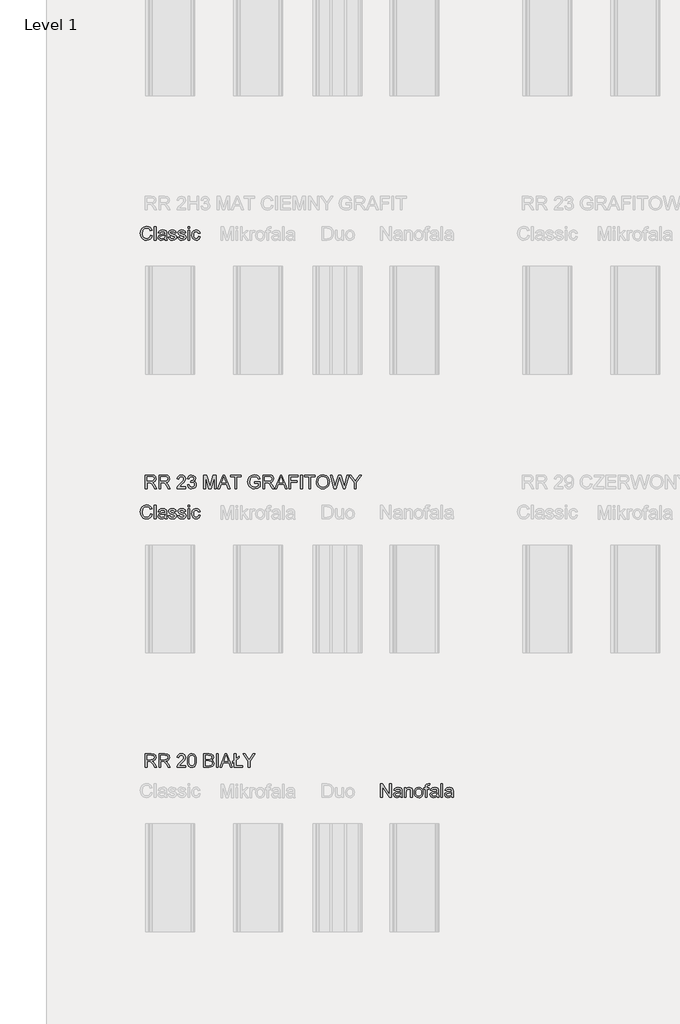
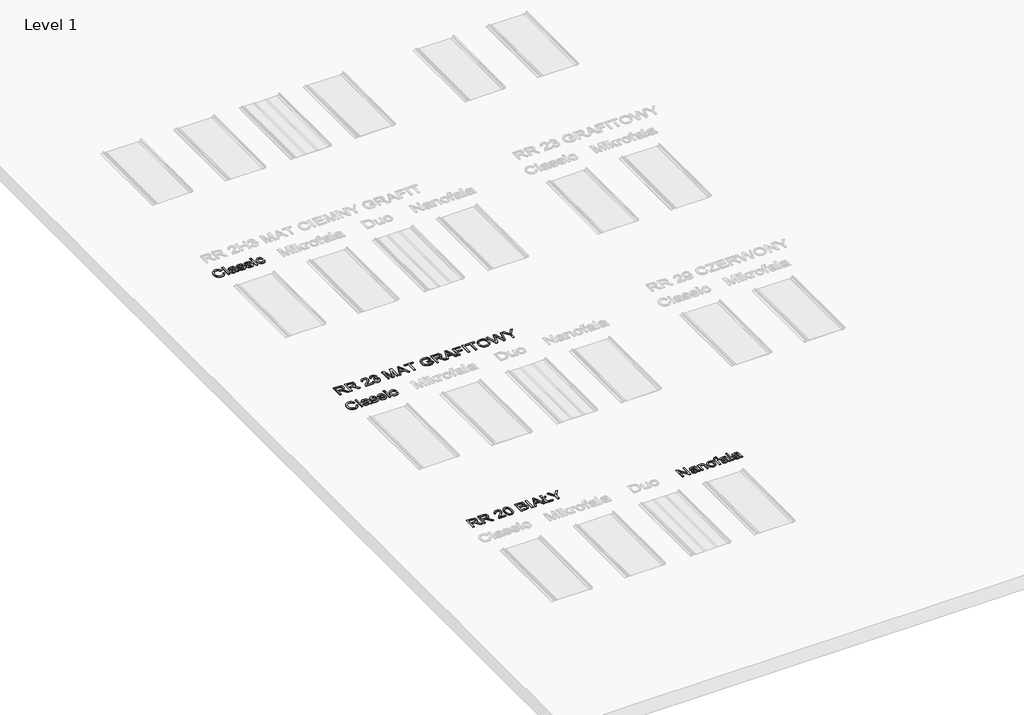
# One storey, part 9 of 22: 5 proxies.
"""IFC4 building model written with IfcOpenShell, lengths in millimetres."""

from ifc_helpers import new_model, si_unit, frame, origin, place, context, project, spatial, polyline, outline, extrude, element, save

model = new_model("IFC4")

# Units and contexts
model_context = context("Model", 3, world=origin())
ifc_project = project(units=[si_unit("LENGTHUNIT", "METRE", prefix="MILLI")], contexts=[model_context])

# Site, building, storey
site = spatial("IfcSite", under=ifc_project)
building = spatial("IfcBuilding", under=site)
storey = spatial("IfcBuildingStorey", under=building, Name="Level 1", Elevation=0.0)

# Proxies
placement = place(None, origin())
element("IfcBuildingElementProxy", 1, Name="150", ObjectType="150", at=placement, inside=storey, context=model_context, shape_type="SweptSolid", body=[
    extrude(outline(polyline([(-8679.0085992, -1917.1818641), (-8660.1730411, -1922.0379064), (-8668.8642532, -1943.986666), (-8682.5034782, -1960.0217224), (-8700.4193314, -1969.8303761), (-8721.9404281, -1973.0999274), (-8743.7880201, -1970.6259209), (-8761.1382547, -1963.2039017), (-8774.4371888, -1951.091387), (-8784.1308794, -1934.5458943), (-8790.049181, -1915.0941338), (-8792.0219482, -1894.2628158), (-8789.7916636, -1872.2910636), (-8783.1008098, -1853.3175497), (-8772.2988747, -1837.9446809), (-8757.7353462, -1826.7748638), (-8740.4632865, -1819.9736454), (-8721.5357579, -1817.7065726), (-8700.8837824, -1820.6404315), (-8683.8094593, -1829.4420082), (-8670.8462175, -1843.5686769), (-8662.5274859, -1862.4778114), (-8681.363044, -1866.9659718), (-8687.8929494, -1853.2301778), (-8696.8140878, -1843.8078002), (-8708.2368238, -1838.3585481), (-8722.2715219, -1836.5421308), (-8738.4491326, -1838.5562847), (-8751.7388697, -1844.5987464), (-8761.8234349, -1854.0349196), (-8768.38553, -1866.2302078), (-8773.18639, -1894.2260276), (-8771.7654458, -1911.626846), (-8767.5026132, -1926.6732196), (-8760.2369438, -1938.7903328), (-8749.8074892, -1947.40337), (-8737.3040999, -1952.5491194), (-8723.8166263, -1954.2643692), (-8708.0942695, -1951.9283185), (-8694.9930719, -1944.9201665), (-8685.1016448, -1933.3134896), (-8679.0085992, -1917.1818641)])), frame((0.0, 0.0, 600.0), z_axis=(0.0, 0.0, 1.0), x_axis=(1.0, 0.0, 0.0)), (0.0, 0.0, 1.0), 10.0),
    extrude(outline(polyline([(-8636.6285934, -1970.7454826), (-8636.6285934, -1820.0610174), (-8617.7930352, -1820.0610174), (-8617.7930352, -1970.7454826), (-8636.6285934, -1970.7454826)])), frame((0.0, 0.0, 600.0), z_axis=(0.0, 0.0, 1.0), x_axis=(1.0, 0.0, 0.0)), (0.0, 0.0, 1.0), 10.0),
    extrude(outline(polyline([(-8518.9063549, -1956.618814), (-8537.171696, -1969.3843192), (-8557.3500234, -1973.0999274), (-8573.0907743, -1970.8650442), (-8584.7020498, -1964.1603949), (-8591.8619531, -1953.9792607), (-8594.2485875, -1941.314923), (-8590.643344, -1926.4157022), (-8581.1703826, -1915.5999715), (-8567.9818131, -1909.419554), (-8551.6846407, -1906.5868626), (-8519.0167195, -1900.1121395), (-8518.9063549, -1895.9182848), (-8520.203139, -1887.5121812), (-8524.0934911, -1882.0123454), (-8532.7939003, -1877.9288552), (-8544.915612, -1876.5676918), (-8563.9718993, -1880.1913295), (-8573.0585846, -1893.0488052), (-8591.8941428, -1890.6943604), (-8583.7455566, -1872.3002607), (-8567.3380196, -1861.5213182), (-8542.4875908, -1857.7321337), (-8519.660513, -1861.0798598), (-8506.7662491, -1869.4859634), (-8500.9905018, -1882.2698628), (-8500.0707968, -1898.7509761), (-8500.0707968, -1922.1850592), (-8499.1143036, -1954.9081627), (-8495.3619072, -1970.7454826), (-8514.1974654, -1970.7454826), (-8518.9063549, -1956.618814)]), holes=[polyline([(-8518.9063549, -1918.9476977), (-8549.2934077, -1924.723445), (-8565.4986096, -1927.7768656), (-8572.8378554, -1932.7432725), (-8575.4130294, -1939.9905478), (-8569.802829, -1950.1808791), (-8553.3401097, -1954.2643692), (-8534.2838223, -1949.7578148), (-8521.9965637, -1938.8501136), (-8519.0167195, -1924.2819866), (-8518.9063549, -1918.9476977)])]), frame((0.0, 0.0, 600.0), z_axis=(0.0, 0.0, 1.0), x_axis=(1.0, 0.0, 0.0)), (0.0, 0.0, 1.0), 10.0),
    extrude(outline(polyline([(-8481.2352386, -1937.7832558), (-8462.3996805, -1935.4288111), (-8459.4290334, -1943.4854268), (-8453.6808772, -1949.4083269), (-8433.7048849, -1954.2643692), (-8414.5014447, -1949.8129971), (-8408.2474508, -1939.3651484), (-8409.8201463, -1934.5642884), (-8414.5382329, -1930.9038625), (-8433.9256141, -1925.5327854), (-8462.2893159, -1916.3173414), (-8474.668545, -1905.5567931), (-8478.8807939, -1890.3632666), (-8475.4962795, -1876.3285685), (-8466.2624414, -1865.6048084), (-8454.2878825, -1860.0313961), (-8438.0826806, -1857.7321337), (-8415.1636323, -1861.4293477), (-8400.5955053, -1871.435738), (-8394.1207822, -1888.3399157), (-8412.9563403, -1890.6943604), (-8420.0380687, -1880.3016941), (-8436.6111526, -1876.5676918), (-8454.6373704, -1880.1361472), (-8460.0452357, -1888.4502803), (-8457.8011555, -1893.931722), (-8450.7746094, -1898.0887885), (-8434.5510134, -1902.0987023), (-8406.9046815, -1910.9646584), (-8394.0655999, -1921.0078368), (-8389.4118926, -1937.3785856), (-8394.8749403, -1955.4048034), (-8410.6386838, -1968.4830083), (-8433.9624023, -1973.0999274), (-8452.9543103, -1970.8742413), (-8466.8142644, -1964.1971831), (-8476.0664966, -1953.1423291), (-8481.2352386, -1937.7832558)])), frame((0.0, 0.0, 600.0), z_axis=(0.0, 0.0, 1.0), x_axis=(1.0, 0.0, 0.0)), (0.0, 0.0, 1.0), 10.0),
    extrude(outline(polyline([(-8375.285224, -1937.7832558), (-8356.4496659, -1935.4288111), (-8353.4790188, -1943.4854268), (-8347.7308626, -1949.4083269), (-8327.7548702, -1954.2643692), (-8308.5514301, -1949.8129971), (-8302.2974362, -1939.3651484), (-8303.8701317, -1934.5642884), (-8308.5882183, -1930.9038625), (-8327.9755994, -1925.5327854), (-8356.3393013, -1916.3173414), (-8368.7185304, -1905.5567931), (-8372.9307793, -1890.3632666), (-8369.5462649, -1876.3285685), (-8360.3124268, -1865.6048084), (-8348.3378679, -1860.0313961), (-8332.132666, -1857.7321337), (-8309.2136177, -1861.4293477), (-8294.6454907, -1871.435738), (-8288.1707676, -1888.3399157), (-8307.0063257, -1890.6943604), (-8314.0880541, -1880.3016941), (-8330.661138, -1876.5676918), (-8348.6873558, -1880.1361472), (-8354.0952211, -1888.4502803), (-8351.8511409, -1893.931722), (-8344.8245948, -1898.0887885), (-8328.6009988, -1902.0987023), (-8300.9546669, -1910.9646584), (-8288.1155853, -1921.0078368), (-8283.461878, -1937.3785856), (-8288.9249257, -1955.4048034), (-8304.6886691, -1968.4830083), (-8328.0123876, -1973.0999274), (-8347.0042956, -1970.8742413), (-8360.8642498, -1964.1971831), (-8370.116482, -1953.1423291), (-8375.285224, -1937.7832558)])), frame((0.0, 0.0, 600.0), z_axis=(0.0, 0.0, 1.0), x_axis=(1.0, 0.0, 0.0)), (0.0, 0.0, 1.0), 10.0),
    extrude(outline(polyline([(-8262.2718751, -1838.8965755), (-8262.2718751, -1820.0610174), (-8243.4363169, -1820.0610174), (-8243.4363169, -1838.8965755), (-8262.2718751, -1838.8965755)])), frame((0.0, 0.0, 600.0), z_axis=(0.0, 0.0, 1.0), x_axis=(1.0, 0.0, 0.0)), (0.0, 0.0, 1.0), 10.0),
    extrude(outline(polyline([(-8262.2718751, -1970.7454826), (-8262.2718751, -1860.0865784), (-8243.4363169, -1860.0865784), (-8243.4363169, -1970.7454826), (-8262.2718751, -1970.7454826)])), frame((0.0, 0.0, 600.0), z_axis=(0.0, 0.0, 1.0), x_axis=(1.0, 0.0, 0.0)), (0.0, 0.0, 1.0), 10.0),
    extrude(outline(polyline([(-8144.5496366, -1930.7199215), (-8125.7140785, -1933.0743663), (-8130.965594, -1949.8267926), (-8140.8340285, -1962.4865318), (-8154.39048, -1970.4465785), (-8170.7060465, -1973.0999274), (-8190.7418197, -1969.3981148), (-8206.4089941, -1958.2926771), (-8216.5211505, -1940.2710578), (-8219.8918693, -1915.8207007), (-8218.452531, -1899.0590773), (-8214.134516, -1884.532337), (-8206.8688466, -1872.8014999), (-8196.5865449, -1864.427586), (-8184.2854906, -1859.4059968), (-8170.9635639, -1857.7321337), (-8155.0480691, -1860.0313961), (-8142.3239506, -1866.9291836), (-8133.1958786, -1878.0576139), (-8128.0685233, -1893.0488052), (-8146.9040814, -1895.40325), (-8155.6412788, -1881.2949755), (-8170.8164111, -1876.5676918), (-8182.9887066, -1878.8945454), (-8192.6502075, -1885.8751063), (-8198.9547852, -1897.8864535), (-8201.0563111, -1915.3056659), (-8199.0007705, -1932.9594032), (-8192.8341485, -1945.012137), (-8183.3473916, -1951.9513112), (-8171.3314459, -1954.2643692), (-8161.5779745, -1952.8204324), (-8153.5811396, -1948.4886219), (-8147.7640056, -1941.1585731), (-8144.5496366, -1930.7199215)])), frame((0.0, 0.0, 600.0), z_axis=(0.0, 0.0, 1.0), x_axis=(1.0, 0.0, 0.0)), (0.0, 0.0, 1.0), 10.0),
])
element("IfcBuildingElementProxy", 2, Name="150", ObjectType="150", at=placement, inside=storey, context=model_context, shape_type="SweptSolid", body=[
    extrude(outline(polyline([(-8679.0085992, -5017.1818641), (-8660.1730411, -5022.0379064), (-8668.8642532, -5043.986666), (-8682.5034782, -5060.0217224), (-8700.4193314, -5069.8303761), (-8721.9404281, -5073.0999274), (-8743.7880201, -5070.6259209), (-8761.1382547, -5063.2039017), (-8774.4371888, -5051.091387), (-8784.1308794, -5034.5458943), (-8790.049181, -5015.0941338), (-8792.0219482, -4994.2628158), (-8789.7916636, -4972.2910636), (-8783.1008098, -4953.3175497), (-8772.2988747, -4937.9446809), (-8757.7353462, -4926.7748638), (-8740.4632865, -4919.9736454), (-8721.5357579, -4917.7065726), (-8700.8837824, -4920.6404315), (-8683.8094593, -4929.4420082), (-8670.8462175, -4943.5686769), (-8662.5274859, -4962.4778114), (-8681.363044, -4966.9659718), (-8687.8929494, -4953.2301778), (-8696.8140878, -4943.8078002), (-8708.2368238, -4938.3585481), (-8722.2715219, -4936.5421308), (-8738.4491326, -4938.5562847), (-8751.7388697, -4944.5987464), (-8761.8234349, -4954.0349196), (-8768.38553, -4966.2302078), (-8773.18639, -4994.2260276), (-8771.7654458, -5011.626846), (-8767.5026132, -5026.6732196), (-8760.2369438, -5038.7903328), (-8749.8074892, -5047.40337), (-8737.3040999, -5052.5491194), (-8723.8166263, -5054.2643692), (-8708.0942695, -5051.9283185), (-8694.9930719, -5044.9201665), (-8685.1016448, -5033.3134896), (-8679.0085992, -5017.1818641)])), frame((0.0, 0.0, 600.0), z_axis=(0.0, 0.0, 1.0), x_axis=(1.0, 0.0, 0.0)), (0.0, 0.0, 1.0), 10.0),
    extrude(outline(polyline([(-8636.6285934, -5070.7454826), (-8636.6285934, -4920.0610174), (-8617.7930352, -4920.0610174), (-8617.7930352, -5070.7454826), (-8636.6285934, -5070.7454826)])), frame((0.0, 0.0, 600.0), z_axis=(0.0, 0.0, 1.0), x_axis=(1.0, 0.0, 0.0)), (0.0, 0.0, 1.0), 10.0),
    extrude(outline(polyline([(-8518.9063549, -5056.618814), (-8537.171696, -5069.3843192), (-8557.3500234, -5073.0999274), (-8573.0907743, -5070.8650442), (-8584.7020498, -5064.1603949), (-8591.8619531, -5053.9792607), (-8594.2485875, -5041.314923), (-8590.643344, -5026.4157022), (-8581.1703826, -5015.5999715), (-8567.9818131, -5009.419554), (-8551.6846407, -5006.5868626), (-8519.0167195, -5000.1121395), (-8518.9063549, -4995.9182848), (-8520.203139, -4987.5121812), (-8524.0934911, -4982.0123454), (-8532.7939003, -4977.9288552), (-8544.915612, -4976.5676918), (-8563.9718993, -4980.1913295), (-8573.0585846, -4993.0488052), (-8591.8941428, -4990.6943604), (-8583.7455566, -4972.3002607), (-8567.3380196, -4961.5213182), (-8542.4875908, -4957.7321337), (-8519.660513, -4961.0798598), (-8506.7662491, -4969.4859634), (-8500.9905018, -4982.2698628), (-8500.0707968, -4998.7509761), (-8500.0707968, -5022.1850592), (-8499.1143036, -5054.9081627), (-8495.3619072, -5070.7454826), (-8514.1974654, -5070.7454826), (-8518.9063549, -5056.618814)]), holes=[polyline([(-8518.9063549, -5018.9476977), (-8549.2934077, -5024.723445), (-8565.4986096, -5027.7768656), (-8572.8378554, -5032.7432725), (-8575.4130294, -5039.9905478), (-8569.802829, -5050.1808791), (-8553.3401097, -5054.2643692), (-8534.2838223, -5049.7578148), (-8521.9965637, -5038.8501136), (-8519.0167195, -5024.2819866), (-8518.9063549, -5018.9476977)])]), frame((0.0, 0.0, 600.0), z_axis=(0.0, 0.0, 1.0), x_axis=(1.0, 0.0, 0.0)), (0.0, 0.0, 1.0), 10.0),
    extrude(outline(polyline([(-8481.2352386, -5037.7832558), (-8462.3996805, -5035.4288111), (-8459.4290334, -5043.4854268), (-8453.6808772, -5049.4083269), (-8433.7048849, -5054.2643692), (-8414.5014447, -5049.8129971), (-8408.2474508, -5039.3651484), (-8409.8201463, -5034.5642884), (-8414.5382329, -5030.9038625), (-8433.9256141, -5025.5327854), (-8462.2893159, -5016.3173414), (-8474.668545, -5005.5567931), (-8478.8807939, -4990.3632666), (-8475.4962795, -4976.3285685), (-8466.2624414, -4965.6048084), (-8454.2878825, -4960.0313961), (-8438.0826806, -4957.7321337), (-8415.1636323, -4961.4293477), (-8400.5955053, -4971.435738), (-8394.1207822, -4988.3399157), (-8412.9563403, -4990.6943604), (-8420.0380687, -4980.3016941), (-8436.6111526, -4976.5676918), (-8454.6373704, -4980.1361472), (-8460.0452357, -4988.4502803), (-8457.8011555, -4993.931722), (-8450.7746094, -4998.0887885), (-8434.5510134, -5002.0987023), (-8406.9046815, -5010.9646584), (-8394.0655999, -5021.0078368), (-8389.4118926, -5037.3785856), (-8394.8749403, -5055.4048034), (-8410.6386838, -5068.4830083), (-8433.9624023, -5073.0999274), (-8452.9543103, -5070.8742413), (-8466.8142644, -5064.1971831), (-8476.0664966, -5053.1423291), (-8481.2352386, -5037.7832558)])), frame((0.0, 0.0, 600.0), z_axis=(0.0, 0.0, 1.0), x_axis=(1.0, 0.0, 0.0)), (0.0, 0.0, 1.0), 10.0),
    extrude(outline(polyline([(-8375.285224, -5037.7832558), (-8356.4496659, -5035.4288111), (-8353.4790188, -5043.4854268), (-8347.7308626, -5049.4083269), (-8327.7548702, -5054.2643692), (-8308.5514301, -5049.8129971), (-8302.2974362, -5039.3651484), (-8303.8701317, -5034.5642884), (-8308.5882183, -5030.9038625), (-8327.9755994, -5025.5327854), (-8356.3393013, -5016.3173414), (-8368.7185304, -5005.5567931), (-8372.9307793, -4990.3632666), (-8369.5462649, -4976.3285685), (-8360.3124268, -4965.6048084), (-8348.3378679, -4960.0313961), (-8332.132666, -4957.7321337), (-8309.2136177, -4961.4293477), (-8294.6454907, -4971.435738), (-8288.1707676, -4988.3399157), (-8307.0063257, -4990.6943604), (-8314.0880541, -4980.3016941), (-8330.661138, -4976.5676918), (-8348.6873558, -4980.1361472), (-8354.0952211, -4988.4502803), (-8351.8511409, -4993.931722), (-8344.8245948, -4998.0887885), (-8328.6009988, -5002.0987023), (-8300.9546669, -5010.9646584), (-8288.1155853, -5021.0078368), (-8283.461878, -5037.3785856), (-8288.9249257, -5055.4048034), (-8304.6886691, -5068.4830083), (-8328.0123876, -5073.0999274), (-8347.0042956, -5070.8742413), (-8360.8642498, -5064.1971831), (-8370.116482, -5053.1423291), (-8375.285224, -5037.7832558)])), frame((0.0, 0.0, 600.0), z_axis=(0.0, 0.0, 1.0), x_axis=(1.0, 0.0, 0.0)), (0.0, 0.0, 1.0), 10.0),
    extrude(outline(polyline([(-8262.2718751, -4938.8965755), (-8262.2718751, -4920.0610174), (-8243.4363169, -4920.0610174), (-8243.4363169, -4938.8965755), (-8262.2718751, -4938.8965755)])), frame((0.0, 0.0, 600.0), z_axis=(0.0, 0.0, 1.0), x_axis=(1.0, 0.0, 0.0)), (0.0, 0.0, 1.0), 10.0),
    extrude(outline(polyline([(-8262.2718751, -5070.7454826), (-8262.2718751, -4960.0865784), (-8243.4363169, -4960.0865784), (-8243.4363169, -5070.7454826), (-8262.2718751, -5070.7454826)])), frame((0.0, 0.0, 600.0), z_axis=(0.0, 0.0, 1.0), x_axis=(1.0, 0.0, 0.0)), (0.0, 0.0, 1.0), 10.0),
    extrude(outline(polyline([(-8144.5496366, -5030.7199215), (-8125.7140785, -5033.0743663), (-8130.965594, -5049.8267926), (-8140.8340285, -5062.4865318), (-8154.39048, -5070.4465785), (-8170.7060465, -5073.0999274), (-8190.7418197, -5069.3981148), (-8206.4089941, -5058.2926771), (-8216.5211505, -5040.2710578), (-8219.8918693, -5015.8207007), (-8218.452531, -4999.0590773), (-8214.134516, -4984.532337), (-8206.8688466, -4972.8014999), (-8196.5865449, -4964.427586), (-8184.2854906, -4959.4059968), (-8170.9635639, -4957.7321337), (-8155.0480691, -4960.0313961), (-8142.3239506, -4966.9291836), (-8133.1958786, -4978.0576139), (-8128.0685233, -4993.0488052), (-8146.9040814, -4995.40325), (-8155.6412788, -4981.2949755), (-8170.8164111, -4976.5676918), (-8182.9887066, -4978.8945454), (-8192.6502075, -4985.8751063), (-8198.9547852, -4997.8864535), (-8201.0563111, -5015.3056659), (-8199.0007705, -5032.9594032), (-8192.8341485, -5045.012137), (-8183.3473916, -5051.9513112), (-8171.3314459, -5054.2643692), (-8161.5779745, -5052.8204324), (-8153.5811396, -5048.4886219), (-8147.7640056, -5041.1585731), (-8144.5496366, -5030.7199215)])), frame((0.0, 0.0, 600.0), z_axis=(0.0, 0.0, 1.0), x_axis=(1.0, 0.0, 0.0)), (0.0, 0.0, 1.0), 10.0),
])
element("IfcBuildingElementProxy", 3, Name="150", ObjectType="150", at=placement, inside=storey, context=model_context, shape_type="SweptSolid", body=[
    extrude(outline(polyline([(-8736.4118342, -7835.6514112), (-8736.4118342, -7684.966946), (-8671.4806621, -7684.966946), (-8641.3327325, -7689.032042), (-8632.0529092, -7694.6606365), (-8624.8516192, -7703.416228), (-8620.2301016, -7714.2733454), (-8618.6895957, -7726.2065176), (-8621.2417771, -7741.0505561), (-8628.8983211, -7753.3562089), (-8641.8891541, -7762.3785148), (-8660.4442022, -7767.3725129), (-8649.7388361, -7775.4291286), (-8634.4717333, -7794.8165097), (-8609.3453931, -7835.6514112), (-8631.2343718, -7835.6514112), (-8650.8424821, -7804.4182298), (-8665.0059389, -7783.7432617), (-8674.9571469, -7773.9759947), (-8683.9150735, -7770.3891452), (-8694.8411687, -7769.7269577), (-8717.576276, -7769.7269577), (-8717.576276, -7835.6514112), (-8736.4118342, -7835.6514112)]), holes=[polyline([(-8717.576276, -7750.8913995), (-8675.4169994, -7750.8913995), (-8653.9142968, -7748.224255), (-8641.7006145, -7739.6893927), (-8637.5251539, -7726.9054934), (-8639.5163152, -7717.7176406), (-8645.4897991, -7710.3140154), (-8655.7675023, -7705.4303819), (-8670.6713217, -7703.8025041), (-8717.576276, -7703.8025041), (-8717.576276, -7750.8913995)])]), frame((0.0, 0.0, 600.0), z_axis=(0.0, 0.0, 1.0), x_axis=(1.0, 0.0, 0.0)), (0.0, 0.0, 1.0), 10.0),
    extrude(outline(polyline([(-8585.727369, -7835.6514112), (-8585.727369, -7684.966946), (-8520.7961968, -7684.966946), (-8490.6482673, -7689.032042), (-8481.368444, -7694.6606365), (-8474.1671539, -7703.416228), (-8469.5456364, -7714.2733454), (-8468.0051305, -7726.2065176), (-8470.5573119, -7741.0505561), (-8478.2138559, -7753.3562089), (-8491.2046888, -7762.3785148), (-8509.759737, -7767.3725129), (-8499.0543709, -7775.4291286), (-8483.7872681, -7794.8165097), (-8458.6609278, -7835.6514112), (-8480.5499066, -7835.6514112), (-8500.1580169, -7804.4182298), (-8514.3214737, -7783.7432617), (-8524.2726817, -7773.9759947), (-8533.2306083, -7770.3891452), (-8544.1567035, -7769.7269577), (-8566.8918108, -7769.7269577), (-8566.8918108, -7835.6514112), (-8585.727369, -7835.6514112)]), holes=[polyline([(-8566.8918108, -7750.8913995), (-8524.7325342, -7750.8913995), (-8503.2298316, -7748.224255), (-8491.0161493, -7739.6893927), (-8486.8406887, -7726.9054934), (-8488.83185, -7717.7176406), (-8494.8053339, -7710.3140154), (-8505.0830371, -7705.4303819), (-8519.9868564, -7703.8025041), (-8566.8918108, -7703.8025041), (-8566.8918108, -7750.8913995)])]), frame((0.0, 0.0, 600.0), z_axis=(0.0, 0.0, 1.0), x_axis=(1.0, 0.0, 0.0)), (0.0, 0.0, 1.0), 10.0),
    extrude(outline(polyline([(-8286.7128833, -7816.815853), (-8286.7128833, -7835.6514112), (-8385.5995636, -7835.6514112), (-8383.5762126, -7822.6651768), (-8372.1166885, -7802.6707903), (-8348.5170585, -7780.8369939), (-8316.0146842, -7749.4566597), (-8309.9308357, -7738.6409291), (-8307.9028862, -7728.119504), (-8309.8204711, -7718.6879293), (-8315.5732258, -7710.8474443), (-8324.4161893, -7705.5637392), (-8335.6044005, -7703.8025041), (-8347.3536317, -7705.5223524), (-8356.4817037, -7710.6818974), (-8362.3724141, -7718.8764689), (-8364.4095607, -7729.7013966), (-8383.2451188, -7727.3469518), (-8378.6787836, -7709.127596), (-8368.8057505, -7695.8194648), (-8354.1410545, -7687.6800757), (-8335.1997303, -7684.966946), (-8316.1204503, -7687.9835783), (-8301.4833454, -7697.0334754), (-8292.1713324, -7710.5531387), (-8289.0673281, -7726.9790698), (-8292.4150542, -7744.8397407), (-8303.5434846, -7763.3074168), (-8330.5276289, -7789.1143388), (-8352.1958784, -7807.2325271), (-8360.6939525, -7816.815853), (-8286.7128833, -7816.815853)])), frame((0.0, 0.0, 600.0), z_axis=(0.0, 0.0, 1.0), x_axis=(1.0, 0.0, 0.0)), (0.0, 0.0, 1.0), 10.0),
    extrude(outline(polyline([(-8267.8773251, -7761.5231892), (-8266.4931691, -7737.4039259), (-8262.3407011, -7718.168296), (-8255.4613078, -7703.5219941), (-8245.8963759, -7693.1707145), (-8233.5769276, -7687.0178881), (-8218.433985, -7684.966946), (-8196.4346417, -7689.8229883), (-8181.2411153, -7703.8208982), (-8172.4119474, -7726.1145471), (-8168.9906448, -7761.5231892), (-8170.3610053, -7785.5044967), (-8174.4720866, -7804.6941413), (-8181.3100932, -7819.3542388), (-8190.8612295, -7829.7469052), (-8203.2082689, -7835.9411183), (-8218.433985, -7838.005856), (-8238.0053071, -7834.4190065), (-8252.8677397, -7823.6584581), (-8264.1249288, -7798.1734329), (-8267.8773251, -7761.5231892)]), holes=[polyline([(-8249.041767, -7761.486401), (-8246.834475, -7791.1146971), (-8240.2125991, -7808.2625966), (-8230.3533616, -7816.4433725), (-8218.433985, -7819.1702978), (-8206.5146083, -7816.4341755), (-8196.6553709, -7808.2258084), (-8190.033495, -7791.0687119), (-8187.826203, -7761.486401), (-8189.9599186, -7732.5248909), (-8196.3610653, -7715.2436342), (-8206.2019087, -7706.6627866), (-8218.6547142, -7703.8025041), (-8230.4453321, -7706.3224958), (-8239.9182935, -7713.8824708), (-8246.7608986, -7732.2397823), (-8249.041767, -7761.486401)])]), frame((0.0, 0.0, 600.0), z_axis=(0.0, 0.0, 1.0), x_axis=(1.0, 0.0, 0.0)), (0.0, 0.0, 1.0), 10.0),
    extrude(outline(polyline([(-8086.5850779, -7835.6514112), (-8086.5850779, -7684.966946), (-8029.0851221, -7684.966946), (-8000.9237553, -7689.399924), (-7991.459991, -7695.02392), (-7984.2954892, -7703.0299519), (-7978.2806185, -7722.3069685), (-7983.338996, -7739.9101219), (-7998.6244929, -7753.2458443), (-7987.9513165, -7758.8192565), (-7980.0648462, -7767.2989365), (-7975.1950083, -7778.1238642), (-7973.571729, -7790.7330196), (-7978.004707, -7810.9849234), (-7988.9859846, -7825.4058976), (-8005.3751275, -7833.0578431), (-8029.5265805, -7835.6514112), (-8086.5850779, -7835.6514112)]), holes=[polyline([(-8067.7495198, -7746.18251), (-8033.3525532, -7746.18251), (-8013.2661963, -7744.5638292), (-8001.1812727, -7737.5924654), (-7997.1161767, -7725.3236008), (-8000.9053612, -7713.0363422), (-8011.7578801, -7705.7706728), (-8035.9645154, -7703.8025041), (-8067.7495198, -7703.8025041), (-8067.7495198, -7746.18251)]), polyline([(-8067.7495198, -7816.815853), (-8029.1219103, -7816.815853), (-8015.1423945, -7816.080089), (-8003.3149883, -7811.9782048), (-7995.4791018, -7803.6088894), (-7992.4072872, -7790.9169606), (-7996.0125307, -7776.2752572), (-8007.6927841, -7767.5380598), (-8030.9613203, -7765.0180681), (-8067.7495198, -7765.0180681), (-8067.7495198, -7816.815853)])]), frame((0.0, 0.0, 600.0), z_axis=(0.0, 0.0, 1.0), x_axis=(1.0, 0.0, 0.0)), (0.0, 0.0, 1.0), 10.0),
    extrude(outline(polyline([(-7945.3183918, -7835.6514112), (-7945.3183918, -7684.966946), (-7926.4828336, -7684.966946), (-7926.4828336, -7835.6514112), (-7945.3183918, -7835.6514112)])), frame((0.0, 0.0, 600.0), z_axis=(0.0, 0.0, 1.0), x_axis=(1.0, 0.0, 0.0)), (0.0, 0.0, 1.0), 10.0),
    extrude(outline(polyline([(-7906.3229003, -7835.6514112), (-7846.1741941, -7684.966946), (-7830.1345391, -7684.966946), (-7770.0226211, -7835.6514112), (-7789.925037, -7835.6514112), (-7807.1419144, -7788.5625158), (-7869.2403952, -7788.5625158), (-7886.4572725, -7835.6514112), (-7906.3229003, -7835.6514112)]), holes=[polyline([(-7862.3242137, -7769.7269577), (-7814.0213077, -7769.7269577), (-7827.6329415, -7732.6812407), (-7838.1911548, -7703.8025041), (-7847.5721457, -7729.4438792), (-7862.3242137, -7769.7269577)])]), frame((0.0, 0.0, 600.0), z_axis=(0.0, 0.0, 1.0), x_axis=(1.0, 0.0, 0.0)), (0.0, 0.0, 1.0), 10.0),
    extrude(outline(polyline([(-7747.5450312, -7776.0177398), (-7764.0261446, -7789.7397382), (-7764.0261446, -7770.90418), (-7747.5450312, -7757.1821816), (-7747.5450312, -7684.966946), (-7728.709473, -7684.966946), (-7728.709473, -7741.4736204), (-7693.3928015, -7712.0430608), (-7693.3928015, -7730.878619), (-7728.709473, -7760.3091786), (-7728.709473, -7816.815853), (-7653.3672404, -7816.815853), (-7653.3672404, -7835.6514112), (-7747.5450312, -7835.6514112), (-7747.5450312, -7776.0177398)])), frame((0.0, 0.0, 600.0), z_axis=(0.0, 0.0, 1.0), x_axis=(1.0, 0.0, 0.0)), (0.0, 0.0, 1.0), 10.0),
    extrude(outline(polyline([(-7592.1516764, -7835.6514112), (-7592.1516764, -7771.823885), (-7651.0127956, -7684.966946), (-7628.8295113, -7684.966946), (-7597.4123889, -7731.3568656), (-7581.3359457, -7755.048466), (-7565.1859262, -7729.6646084), (-7536.6750715, -7684.966946), (-7514.454999, -7684.966946), (-7573.3161183, -7771.823885), (-7573.3161183, -7835.6514112), (-7592.1516764, -7835.6514112)])), frame((0.0, 0.0, 600.0), z_axis=(0.0, 0.0, 1.0), x_axis=(1.0, 0.0, 0.0)), (0.0, 0.0, 1.0), 10.0),
])
element("IfcBuildingElementProxy", 4, Name="150", ObjectType="150", at=placement, inside=storey, context=model_context, shape_type="SweptSolid", body=[
    extrude(outline(polyline([(-6116.7806572, -8172.1592468), (-6116.7806572, -8021.4747816), (-6096.6207239, -8021.4747816), (-6017.8939769, -8140.852489), (-6017.8939769, -8021.4747816), (-5999.0584188, -8021.4747816), (-5999.0584188, -8172.1592468), (-6019.2183521, -8172.1592468), (-6097.9450991, -8052.7447512), (-6097.9450991, -8172.1592468), (-6116.7806572, -8172.1592468)])), frame((0.0, 0.0, 600.0), z_axis=(0.0, 0.0, 1.0), x_axis=(1.0, 0.0, 0.0)), (0.0, 0.0, 1.0), 10.0),
    extrude(outline(polyline([(-5897.8172937, -8158.0325782), (-5916.0826347, -8170.7980834), (-5936.2609622, -8174.5136916), (-5952.001713, -8172.2788084), (-5963.6129885, -8165.5741591), (-5970.7728919, -8155.3930249), (-5973.1595263, -8142.7286872), (-5969.5542827, -8127.8294664), (-5960.0813214, -8117.0137357), (-5946.8927518, -8110.8333182), (-5930.5955795, -8108.0006268), (-5897.9276583, -8101.5259037), (-5897.8172937, -8097.332049), (-5899.1140777, -8088.9259454), (-5903.0044298, -8083.4261096), (-5911.704839, -8079.3426194), (-5923.8265507, -8077.981456), (-5942.8828381, -8081.6050937), (-5951.9695234, -8094.4625694), (-5970.8050815, -8092.1081246), (-5962.6564953, -8073.7140249), (-5946.2489583, -8062.9350824), (-5921.3985296, -8059.1458979), (-5898.5714518, -8062.493624), (-5885.6771878, -8070.8997276), (-5879.9014405, -8083.683627), (-5878.9817355, -8100.1647403), (-5878.9817355, -8123.5988234), (-5878.0252423, -8156.3219269), (-5874.272846, -8172.1592468), (-5893.1084041, -8172.1592468), (-5897.8172937, -8158.0325782)]), holes=[polyline([(-5897.8172937, -8120.3614619), (-5928.2043465, -8126.1372092), (-5944.4095484, -8129.1906298), (-5951.7487942, -8134.1570367), (-5954.3239681, -8141.404312), (-5948.7137677, -8151.5946433), (-5932.2510484, -8155.6781334), (-5913.1947611, -8151.171579), (-5900.9075024, -8140.2638778), (-5897.9276583, -8125.6957508), (-5897.8172937, -8120.3614619)])]), frame((0.0, 0.0, 600.0), z_axis=(0.0, 0.0, 1.0), x_axis=(1.0, 0.0, 0.0)), (0.0, 0.0, 1.0), 10.0),
    extrude(outline(polyline([(-5853.0828431, -8172.1592468), (-5853.0828431, -8061.5003426), (-5834.2472849, -8061.5003426), (-5834.2472849, -8076.9513864), (-5819.8447048, -8063.59727), (-5800.1814122, -8059.1458979), (-5782.3943177, -8062.7327473), (-5770.2542119, -8072.1505264), (-5764.6072232, -8086.0012835), (-5763.6139418, -8104.2114423), (-5763.6139418, -8172.1592468), (-5782.4495, -8172.1592468), (-5782.4495, -8106.749828), (-5784.6200038, -8090.0847737), (-5792.2903434, -8081.2739999), (-5805.2213955, -8077.981456), (-5816.2532568, -8079.8300631), (-5825.6572403, -8085.3758841), (-5832.0997738, -8096.0904472), (-5834.2472849, -8113.4452804), (-5834.2472849, -8172.1592468), (-5853.0828431, -8172.1592468)])), frame((0.0, 0.0, 600.0), z_axis=(0.0, 0.0, 1.0), x_axis=(1.0, 0.0, 0.0)), (0.0, 0.0, 1.0), 10.0),
    extrude(outline(polyline([(-5742.4239389, -8116.8297947), (-5738.3496458, -8090.149153), (-5726.1267665, -8071.3963683), (-5711.0252106, -8062.2085155), (-5692.9438106, -8059.1458979), (-5673.1563578, -8062.8753016), (-5657.3512275, -8074.0635128), (-5646.9907508, -8091.8276146), (-5643.5372586, -8115.2846903), (-5645.0639689, -8134.3133865), (-5649.6440997, -8148.7987401), (-5657.1442939, -8159.6466604), (-5667.4311942, -8167.7630569), (-5679.649475, -8172.8260329), (-5692.9438106, -8174.5136916), (-5712.9703867, -8170.7980834), (-5728.7571228, -8159.651259), (-5739.0072349, -8141.5146766), (-5742.4239389, -8116.8297947)]), holes=[polyline([(-5723.5883808, -8116.7930065), (-5721.4086799, -8133.8397385), (-5714.8695775, -8145.9844428), (-5705.0287341, -8153.2547108), (-5692.9438106, -8155.6781334), (-5680.9140693, -8153.2409152), (-5671.0916201, -8145.9292605), (-5664.5525176, -8133.6236078), (-5662.3728168, -8116.2043953), (-5664.5663132, -8099.6543041), (-5671.1468024, -8087.6751466), (-5680.9830472, -8080.4048787), (-5692.9438106, -8077.981456), (-5705.0287341, -8080.3956816), (-5714.8695775, -8087.6383584), (-5721.4086799, -8099.7554716), (-5723.5883808, -8116.7930065)])]), frame((0.0, 0.0, 600.0), z_axis=(0.0, 0.0, 1.0), x_axis=(1.0, 0.0, 0.0)), (0.0, 0.0, 1.0), 10.0),
    extrude(outline(polyline([(-5617.6383662, -8172.1592468), (-5617.6383662, -8080.3359008), (-5634.1194795, -8080.3359008), (-5634.1194795, -8061.5003426), (-5617.6383662, -8061.5003426), (-5617.6383662, -8050.3535182), (-5615.6518034, -8034.644957), (-5606.0132951, -8023.4245561), (-5587.0305842, -8019.1203368), (-5569.850495, -8021.180476), (-5572.6096099, -8038.8388117), (-5583.4621288, -8037.955895), (-5595.3263231, -8041.0828919), (-5598.802808, -8052.7447512), (-5598.802808, -8061.5003426), (-5577.6128051, -8061.5003426), (-5577.6128051, -8080.3359008), (-5598.802808, -8080.3359008), (-5598.802808, -8172.1592468), (-5617.6383662, -8172.1592468)])), frame((0.0, 0.0, 600.0), z_axis=(0.0, 0.0, 1.0), x_axis=(1.0, 0.0, 0.0)), (0.0, 0.0, 1.0), 10.0),
    extrude(outline(polyline([(-5490.4983486, -8158.0325782), (-5508.7636897, -8170.7980834), (-5528.9420171, -8174.5136916), (-5544.682768, -8172.2788084), (-5556.2940435, -8165.5741591), (-5563.4539468, -8155.3930249), (-5565.8405812, -8142.7286872), (-5562.2353377, -8127.8294664), (-5552.7623763, -8117.0137357), (-5539.5738068, -8110.8333182), (-5523.2766344, -8108.0006268), (-5490.6087132, -8101.5259037), (-5490.4983486, -8097.332049), (-5491.7951327, -8088.9259454), (-5495.6854848, -8083.4261096), (-5504.3858939, -8079.3426194), (-5516.5076057, -8077.981456), (-5535.563893, -8081.6050937), (-5544.6505783, -8094.4625694), (-5563.4861365, -8092.1081246), (-5555.3375503, -8073.7140249), (-5538.9300133, -8062.9350824), (-5514.0795845, -8059.1458979), (-5491.2525067, -8062.493624), (-5478.3582428, -8070.8997276), (-5472.5824955, -8083.683627), (-5471.6627905, -8100.1647403), (-5471.6627905, -8123.5988234), (-5470.7062973, -8156.3219269), (-5466.9539009, -8172.1592468), (-5485.7894591, -8172.1592468), (-5490.4983486, -8158.0325782)]), holes=[polyline([(-5490.4983486, -8120.3614619), (-5520.8854014, -8126.1372092), (-5537.0906033, -8129.1906298), (-5544.4298491, -8134.1570367), (-5547.0050231, -8141.404312), (-5541.3948227, -8151.5946433), (-5524.9321034, -8155.6781334), (-5505.875816, -8151.171579), (-5493.5885574, -8140.2638778), (-5490.6087132, -8125.6957508), (-5490.4983486, -8120.3614619)])]), frame((0.0, 0.0, 600.0), z_axis=(0.0, 0.0, 1.0), x_axis=(1.0, 0.0, 0.0)), (0.0, 0.0, 1.0), 10.0),
    extrude(outline(polyline([(-5445.763898, -8172.1592468), (-5445.763898, -8021.4747816), (-5426.9283399, -8021.4747816), (-5426.9283399, -8172.1592468), (-5445.763898, -8172.1592468)])), frame((0.0, 0.0, 600.0), z_axis=(0.0, 0.0, 1.0), x_axis=(1.0, 0.0, 0.0)), (0.0, 0.0, 1.0), 10.0),
    extrude(outline(polyline([(-5328.0416596, -8158.0325782), (-5346.3070006, -8170.7980834), (-5366.485328, -8174.5136916), (-5382.2260789, -8172.2788084), (-5393.8373544, -8165.5741591), (-5400.9972577, -8155.3930249), (-5403.3838922, -8142.7286872), (-5399.7786486, -8127.8294664), (-5390.3056872, -8117.0137357), (-5377.1171177, -8110.8333182), (-5360.8199453, -8108.0006268), (-5328.1520242, -8101.5259037), (-5328.0416596, -8097.332049), (-5329.3384436, -8088.9259454), (-5333.2287957, -8083.4261096), (-5341.9292049, -8079.3426194), (-5354.0509166, -8077.981456), (-5373.107204, -8081.6050937), (-5382.1938892, -8094.4625694), (-5401.0294474, -8092.1081246), (-5392.8808612, -8073.7140249), (-5376.4733242, -8062.9350824), (-5351.6228954, -8059.1458979), (-5328.7958176, -8062.493624), (-5315.9015537, -8070.8997276), (-5310.1258064, -8083.683627), (-5309.2061014, -8100.1647403), (-5309.2061014, -8123.5988234), (-5308.2496082, -8156.3219269), (-5304.4972119, -8172.1592468), (-5323.33277, -8172.1592468), (-5328.0416596, -8158.0325782)]), holes=[polyline([(-5328.0416596, -8120.3614619), (-5358.4287124, -8126.1372092), (-5374.6339142, -8129.1906298), (-5381.97316, -8134.1570367), (-5384.548334, -8141.404312), (-5378.9381336, -8151.5946433), (-5362.4754143, -8155.6781334), (-5343.419127, -8151.171579), (-5331.1318683, -8140.2638778), (-5328.1520242, -8125.6957508), (-5328.0416596, -8120.3614619)])]), frame((0.0, 0.0, 600.0), z_axis=(0.0, 0.0, 1.0), x_axis=(1.0, 0.0, 0.0)), (0.0, 0.0, 1.0), 10.0),
])
element("IfcBuildingElementProxy", 5, Name="150 Blue", ObjectType="150 Blue", at=placement, inside=storey, context=model_context, shape_type="SweptSolid", body=[
    extrude(outline(polyline([(-8736.4118342, -4735.6514112), (-8736.4118342, -4584.966946), (-8671.4806621, -4584.966946), (-8641.3327325, -4589.032042), (-8632.0529092, -4594.6606365), (-8624.8516192, -4603.416228), (-8620.2301016, -4614.2733454), (-8618.6895957, -4626.2065176), (-8621.2417771, -4641.0505561), (-8628.8983211, -4653.3562089), (-8641.8891541, -4662.3785148), (-8660.4442022, -4667.3725129), (-8649.7388361, -4675.4291286), (-8634.4717333, -4694.8165097), (-8609.3453931, -4735.6514112), (-8631.2343718, -4735.6514112), (-8650.8424821, -4704.4182298), (-8665.0059389, -4683.7432617), (-8674.9571469, -4673.9759947), (-8683.9150735, -4670.3891452), (-8694.8411687, -4669.7269577), (-8717.576276, -4669.7269577), (-8717.576276, -4735.6514112), (-8736.4118342, -4735.6514112)]), holes=[polyline([(-8717.576276, -4650.8913995), (-8675.4169994, -4650.8913995), (-8653.9142968, -4648.224255), (-8641.7006145, -4639.6893927), (-8637.5251539, -4626.9054934), (-8639.5163152, -4617.7176406), (-8645.4897991, -4610.3140154), (-8655.7675023, -4605.4303819), (-8670.6713217, -4603.8025041), (-8717.576276, -4603.8025041), (-8717.576276, -4650.8913995)])]), frame((0.0, 0.0, 600.0), z_axis=(0.0, 0.0, 1.0), x_axis=(1.0, 0.0, 0.0)), (0.0, 0.0, 1.0), 10.0),
    extrude(outline(polyline([(-8585.727369, -4735.6514112), (-8585.727369, -4584.966946), (-8520.7961968, -4584.966946), (-8490.6482673, -4589.032042), (-8481.368444, -4594.6606365), (-8474.1671539, -4603.416228), (-8469.5456364, -4614.2733454), (-8468.0051305, -4626.2065176), (-8470.5573119, -4641.0505561), (-8478.2138559, -4653.3562089), (-8491.2046888, -4662.3785148), (-8509.759737, -4667.3725129), (-8499.0543709, -4675.4291286), (-8483.7872681, -4694.8165097), (-8458.6609278, -4735.6514112), (-8480.5499066, -4735.6514112), (-8500.1580169, -4704.4182298), (-8514.3214737, -4683.7432617), (-8524.2726817, -4673.9759947), (-8533.2306083, -4670.3891452), (-8544.1567035, -4669.7269577), (-8566.8918108, -4669.7269577), (-8566.8918108, -4735.6514112), (-8585.727369, -4735.6514112)]), holes=[polyline([(-8566.8918108, -4650.8913995), (-8524.7325342, -4650.8913995), (-8503.2298316, -4648.224255), (-8491.0161493, -4639.6893927), (-8486.8406887, -4626.9054934), (-8488.83185, -4617.7176406), (-8494.8053339, -4610.3140154), (-8505.0830371, -4605.4303819), (-8519.9868564, -4603.8025041), (-8566.8918108, -4603.8025041), (-8566.8918108, -4650.8913995)])]), frame((0.0, 0.0, 600.0), z_axis=(0.0, 0.0, 1.0), x_axis=(1.0, 0.0, 0.0)), (0.0, 0.0, 1.0), 10.0),
    extrude(outline(polyline([(-8286.7128833, -4716.815853), (-8286.7128833, -4735.6514112), (-8385.5995636, -4735.6514112), (-8383.5762126, -4722.6651768), (-8372.1166885, -4702.6707903), (-8348.5170585, -4680.8369939), (-8316.0146842, -4649.4566597), (-8309.9308357, -4638.6409291), (-8307.9028862, -4628.119504), (-8309.8204711, -4618.6879293), (-8315.5732258, -4610.8474443), (-8324.4161893, -4605.5637392), (-8335.6044005, -4603.8025041), (-8347.3536317, -4605.5223524), (-8356.4817037, -4610.6818974), (-8362.3724141, -4618.8764689), (-8364.4095607, -4629.7013966), (-8383.2451188, -4627.3469518), (-8378.6787836, -4609.127596), (-8368.8057505, -4595.8194648), (-8354.1410545, -4587.6800757), (-8335.1997303, -4584.966946), (-8316.1204503, -4587.9835783), (-8301.4833454, -4597.0334754), (-8292.1713324, -4610.5531387), (-8289.0673281, -4626.9790698), (-8292.4150542, -4644.8397407), (-8303.5434846, -4663.3074168), (-8330.5276289, -4689.1143388), (-8352.1958784, -4707.2325271), (-8360.6939525, -4716.815853), (-8286.7128833, -4716.815853)])), frame((0.0, 0.0, 600.0), z_axis=(0.0, 0.0, 1.0), x_axis=(1.0, 0.0, 0.0)), (0.0, 0.0, 1.0), 10.0),
    extrude(outline(polyline([(-8267.8773251, -4695.6258501), (-8249.041767, -4693.2714053), (-8244.8249196, -4705.1080085), (-8238.6491006, -4713.1002449), (-8230.2108074, -4717.6527846), (-8219.2065372, -4719.1702978), (-8206.2938792, -4717.0825675), (-8196.3242771, -4710.8193765), (-8189.9507215, -4701.4751738), (-8187.826203, -4690.1444084), (-8189.9323274, -4679.3884586), (-8196.2507007, -4670.6650567), (-8205.8156326, -4664.8847109), (-8217.6614328, -4662.9579289), (-8230.8683964, -4665.0180681), (-8228.7714691, -4646.18251), (-8225.7548367, -4646.4032392), (-8204.3808928, -4640.9953738), (-8197.2623762, -4634.1343746), (-8194.8895373, -4624.3671076), (-8196.6093856, -4616.232317), (-8201.7689306, -4609.6334337), (-8209.6416053, -4605.2602365), (-8219.5008428, -4603.8025041), (-8229.3784744, -4605.2740321), (-8237.4534841, -4609.688616), (-8243.3487931, -4617.0462559), (-8246.6873222, -4627.3469518), (-8265.5228804, -4624.992507), (-8259.9770593, -4608.0791323), (-8250.1086248, -4595.4515828), (-8236.6073556, -4587.5881052), (-8220.1630304, -4584.966946), (-8197.4463172, -4590.135688), (-8181.553815, -4604.2623566), (-8176.0539791, -4623.2634617), (-8181.2779035, -4640.6274918), (-8196.7289473, -4653.0986915), (-8184.9383293, -4657.8627633), (-8176.2011319, -4665.9745613), (-8170.7932666, -4676.9926271), (-8168.9906448, -4690.4755022), (-8172.5958884, -4708.8328137), (-8183.4116191, -4724.1734929), (-8199.7363826, -4734.5477652), (-8219.8687248, -4738.005856), (-8238.0788835, -4735.0536029), (-8252.9045279, -4726.1968439), (-8263.2144209, -4712.6495894), (-8267.8773251, -4695.6258501)])), frame((0.0, 0.0, 600.0), z_axis=(0.0, 0.0, 1.0), x_axis=(1.0, 0.0, 0.0)), (0.0, 0.0, 1.0), 10.0),
    extrude(outline(polyline([(-8086.5850779, -4735.6514112), (-8086.5850779, -4584.966946), (-8054.2850387, -4584.966946), (-8023.3829512, -4691.174478), (-8017.1289572, -4713.3577623), (-8010.3967167, -4689.335068), (-7980.0832403, -4584.966946), (-7947.6728365, -4584.966946), (-7947.6728365, -4735.6514112), (-7966.5083947, -4735.6514112), (-7966.5083947, -4603.8025041), (-8004.363452, -4735.6514112), (-8029.8576743, -4735.6514112), (-8067.7495198, -4603.8025041), (-8067.7495198, -4735.6514112), (-8086.5850779, -4735.6514112)])), frame((0.0, 0.0, 600.0), z_axis=(0.0, 0.0, 1.0), x_axis=(1.0, 0.0, 0.0)), (0.0, 0.0, 1.0), 10.0),
    extrude(outline(polyline([(-7932.2217927, -4735.6514112), (-7872.0730865, -4584.966946), (-7856.0334315, -4584.966946), (-7795.9215135, -4735.6514112), (-7815.8239295, -4735.6514112), (-7833.0408068, -4688.5625158), (-7895.1392876, -4688.5625158), (-7912.356165, -4735.6514112), (-7932.2217927, -4735.6514112)]), holes=[polyline([(-7888.2231061, -4669.7269577), (-7839.9202002, -4669.7269577), (-7853.531834, -4632.6812407), (-7864.0900472, -4603.8025041), (-7873.4710381, -4629.4438792), (-7888.2231061, -4669.7269577)])]), frame((0.0, 0.0, 600.0), z_axis=(0.0, 0.0, 1.0), x_axis=(1.0, 0.0, 0.0)), (0.0, 0.0, 1.0), 10.0),
    extrude(outline(polyline([(-7738.1272521, -4735.6514112), (-7738.1272521, -4603.8025041), (-7787.5705922, -4603.8025041), (-7787.5705922, -4584.966946), (-7669.8483538, -4584.966946), (-7669.8483538, -4603.8025041), (-7719.2916939, -4603.8025041), (-7719.2916939, -4735.6514112), (-7738.1272521, -4735.6514112)])), frame((0.0, 0.0, 600.0), z_axis=(0.0, 0.0, 1.0), x_axis=(1.0, 0.0, 0.0)), (0.0, 0.0, 1.0), 10.0),
    extrude(outline(polyline([(-7519.1638886, -4676.790292), (-7519.1638886, -4657.9547338), (-7457.9483246, -4657.9547338), (-7457.9483246, -4714.2774673), (-7488.1698305, -4732.0461676), (-7520.1203817, -4738.005856), (-7541.2506038, -4735.6376156), (-7560.3482779, -4728.5328946), (-7576.213189, -4716.9400132), (-7587.645122, -4701.1072918), (-7594.5567049, -4682.1153838), (-7596.8605659, -4661.0449426), (-7594.565902, -4639.82275), (-7587.6819102, -4620.0812824), (-7576.493699, -4603.5219941), (-7561.286377, -4591.8463393), (-7542.7635186, -4584.9209607), (-7521.6286979, -4582.6125012), (-7492.1613501, -4587.9651842), (-7480.4121189, -4594.3663309), (-7471.5047761, -4602.864405), (-7460.1188283, -4627.7884102), (-7477.4828585, -4632.6812407), (-7486.0729031, -4615.2620283), (-7500.7513947, -4605.2188498), (-7521.9230035, -4601.4480593), (-7546.0376683, -4605.5131554), (-7562.4452053, -4616.1817333), (-7572.1388959, -4630.694678), (-7578.0250078, -4660.2723904), (-7576.2545757, -4678.2848126), (-7570.9432794, -4693.1058584), (-7562.2520672, -4704.6297619), (-7550.3418877, -4712.750757), (-7536.4037586, -4717.5654126), (-7521.6286979, -4719.1702978), (-7495.8585642, -4714.3326496), (-7476.7838827, -4704.0135596), (-7476.7838827, -4676.790292), (-7519.1638886, -4676.790292)])), frame((0.0, 0.0, 600.0), z_axis=(0.0, 0.0, 1.0), x_axis=(1.0, 0.0, 0.0)), (0.0, 0.0, 1.0), 10.0),
    extrude(outline(polyline([(-7427.3405426, -4735.6514112), (-7427.3405426, -4584.966946), (-7362.4093704, -4584.966946), (-7332.2614409, -4589.032042), (-7322.9816176, -4594.6606365), (-7315.7803275, -4603.416228), (-7311.15881, -4614.2733454), (-7309.6183041, -4626.2065176), (-7312.1704855, -4641.0505561), (-7319.8270295, -4653.3562089), (-7332.8178624, -4662.3785148), (-7351.3729106, -4667.3725129), (-7340.6675445, -4675.4291286), (-7325.4004417, -4694.8165097), (-7300.2741014, -4735.6514112), (-7322.1630801, -4735.6514112), (-7341.7711905, -4704.4182298), (-7355.9346473, -4683.7432617), (-7365.8858553, -4673.9759947), (-7374.8437819, -4670.3891452), (-7385.7698771, -4669.7269577), (-7408.5049844, -4669.7269577), (-7408.5049844, -4735.6514112), (-7427.3405426, -4735.6514112)]), holes=[polyline([(-7408.5049844, -4650.8913995), (-7366.3457078, -4650.8913995), (-7344.8430051, -4648.224255), (-7332.6293229, -4639.6893927), (-7328.4538623, -4626.9054934), (-7330.4450236, -4617.7176406), (-7336.4185075, -4610.3140154), (-7346.6962107, -4605.4303819), (-7361.60003, -4603.8025041), (-7408.5049844, -4603.8025041), (-7408.5049844, -4650.8913995)])]), frame((0.0, 0.0, 600.0), z_axis=(0.0, 0.0, 1.0), x_axis=(1.0, 0.0, 0.0)), (0.0, 0.0, 1.0), 10.0),
    extrude(outline(polyline([(-7294.1672603, -4735.6514112), (-7234.0185541, -4584.966946), (-7217.9788991, -4584.966946), (-7157.8669811, -4735.6514112), (-7177.769397, -4735.6514112), (-7194.9862744, -4688.5625158), (-7257.0847552, -4688.5625158), (-7274.3016326, -4735.6514112), (-7294.1672603, -4735.6514112)]), holes=[polyline([(-7250.1685737, -4669.7269577), (-7201.8656677, -4669.7269577), (-7215.4773015, -4632.6812407), (-7226.0355148, -4603.8025041), (-7235.4165057, -4629.4438792), (-7250.1685737, -4669.7269577)])]), frame((0.0, 0.0, 600.0), z_axis=(0.0, 0.0, 1.0), x_axis=(1.0, 0.0, 0.0)), (0.0, 0.0, 1.0), 10.0),
    extrude(outline(polyline([(-7137.743836, -4735.6514112), (-7137.743836, -4584.966946), (-7036.5027109, -4584.966946), (-7036.5027109, -4603.8025041), (-7118.9082778, -4603.8025041), (-7118.9082778, -4648.5369547), (-7048.2749347, -4648.5369547), (-7048.2749347, -4667.3725129), (-7118.9082778, -4667.3725129), (-7118.9082778, -4735.6514112), (-7137.743836, -4735.6514112)])), frame((0.0, 0.0, 600.0), z_axis=(0.0, 0.0, 1.0), x_axis=(1.0, 0.0, 0.0)), (0.0, 0.0, 1.0), 10.0),
    extrude(outline(polyline([(-7008.2493737, -4735.6514112), (-7008.2493737, -4584.966946), (-6989.4138155, -4584.966946), (-6989.4138155, -4735.6514112), (-7008.2493737, -4735.6514112)])), frame((0.0, 0.0, 600.0), z_axis=(0.0, 0.0, 1.0), x_axis=(1.0, 0.0, 0.0)), (0.0, 0.0, 1.0), 10.0),
    extrude(outline(polyline([(-6914.0715829, -4735.6514112), (-6914.0715829, -4603.8025041), (-6963.514923, -4603.8025041), (-6963.514923, -4584.966946), (-6845.7926846, -4584.966946), (-6845.7926846, -4603.8025041), (-6895.2360247, -4603.8025041), (-6895.2360247, -4735.6514112), (-6914.0715829, -4735.6514112)])), frame((0.0, 0.0, 600.0), z_axis=(0.0, 0.0, 1.0), x_axis=(1.0, 0.0, 0.0)), (0.0, 0.0, 1.0), 10.0),
    extrude(outline(polyline([(-6831.666016, -4662.2957413), (-6826.6444267, -4628.9748296), (-6820.3674402, -4615.356298), (-6811.579659, -4603.7657159), (-6788.5778373, -4587.9008049), (-6759.7450859, -4582.6125012), (-6739.9806257, -4585.0957047), (-6722.2579106, -4592.5453151), (-6707.5426308, -4604.4371006), (-6696.8004765, -4620.2468293), (-6690.2337829, -4639.2111462), (-6688.0448851, -4660.566696), (-6690.3487461, -4682.2073543), (-6697.260329, -4701.4383856), (-6708.3979564, -4717.2757055), (-6723.3799507, -4728.7352297), (-6740.9509145, -4735.6881994), (-6759.8554505, -4738.005856), (-6779.9234134, -4735.4444776), (-6797.747296, -4727.7603424), (-6812.4257876, -4715.6478277), (-6823.0575773, -4699.8013108), (-6829.5139063, -4681.5681594), (-6831.666016, -4662.2957413)]), holes=[polyline([(-6812.8304578, -4662.4796823), (-6809.0642659, -4686.0517212), (-6797.7656901, -4704.0135596), (-6780.7833375, -4715.3811133), (-6759.9658151, -4719.1702978), (-6738.8447901, -4715.3443251), (-6721.8348463, -4703.8664068), (-6710.619044, -4685.3527454), (-6706.8804432, -4660.4195432), (-6708.4807299, -4643.7452917), (-6713.2815899, -4629.3335146), (-6721.1588631, -4617.5474952), (-6731.9883894, -4608.750517), (-6745.0527987, -4603.2736737), (-6759.6347213, -4601.4480593), (-6779.8958222, -4604.9659309), (-6797.1218966, -4615.5195457), (-6808.9033175, -4634.295323), (-6812.8304578, -4662.4796823)])]), frame((0.0, 0.0, 600.0), z_axis=(0.0, 0.0, 1.0), x_axis=(1.0, 0.0, 0.0)), (0.0, 0.0, 1.0), 10.0),
    extrude(outline(polyline([(-6635.1802424, -4735.6514112), (-6676.2726612, -4584.966946), (-6656.8484919, -4584.966946), (-6633.0097386, -4684.0007791), (-6625.6520987, -4714.5717729), (-6617.779424, -4687.5324462), (-6587.907406, -4584.966946), (-6559.9115861, -4584.966946), (-6538.2065484, -4659.3158972), (-6522.0565288, -4714.5717729), (-6514.9196181, -4684.8836959), (-6490.8969238, -4584.966946), (-6471.4359663, -4584.966946), (-6512.491597, -4735.6514112), (-6532.6515303, -4735.6514112), (-6568.8143304, -4619.4007007), (-6573.8543138, -4603.1771047), (-6579.5196965, -4622.7116387), (-6612.445135, -4735.6514112), (-6635.1802424, -4735.6514112)])), frame((0.0, 0.0, 600.0), z_axis=(0.0, 0.0, 1.0), x_axis=(1.0, 0.0, 0.0)), (0.0, 0.0, 1.0), 10.0),
    extrude(outline(polyline([(-6410.2204023, -4735.6514112), (-6410.2204023, -4671.823885), (-6469.0815215, -4584.966946), (-6446.8982372, -4584.966946), (-6415.4811148, -4631.3568656), (-6399.4046716, -4655.048466), (-6383.2546521, -4629.6646084), (-6354.7437974, -4584.966946), (-6332.5237249, -4584.966946), (-6391.3848441, -4671.823885), (-6391.3848441, -4735.6514112), (-6410.2204023, -4735.6514112)])), frame((0.0, 0.0, 600.0), z_axis=(0.0, 0.0, 1.0), x_axis=(1.0, 0.0, 0.0)), (0.0, 0.0, 1.0), 10.0),
])

save(model, "model.ifc")
